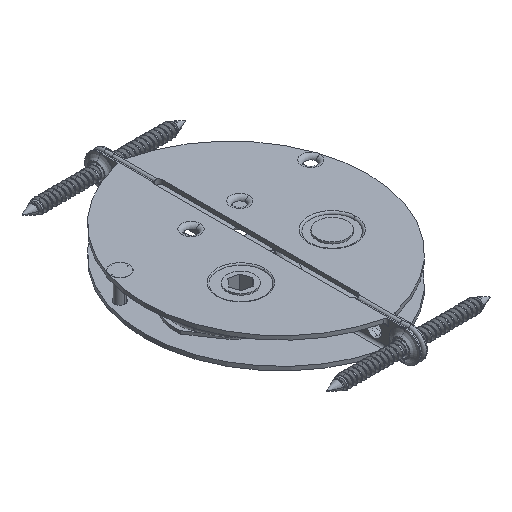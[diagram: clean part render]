
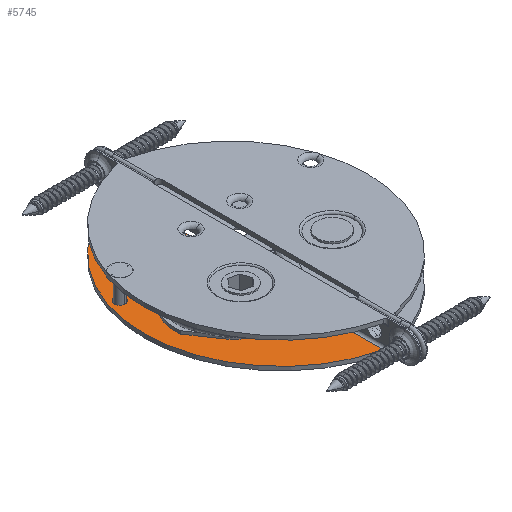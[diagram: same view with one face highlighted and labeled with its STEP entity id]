
A CAD part, isometric view. The second image highlights one B-rep face of the part: STEP entity #5745.
In plain terms, the highlighted planar face has unit normal (0, 0, 1).
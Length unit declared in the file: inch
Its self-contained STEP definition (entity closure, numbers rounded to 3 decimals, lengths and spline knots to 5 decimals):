
#5211 = VERTEX_POINT ( 'NONE', #14658 ) ;
#5212 = VERTEX_POINT ( 'NONE', #14693 ) ;
#5213 = EDGE_CURVE ( 'NONE', #5211, #5212, #14653, .T. ) ;
#5224 = VERTEX_POINT ( 'NONE', #14677 ) ;
#5225 = EDGE_CURVE ( 'NONE', #5244, #5224, #14727, .T. ) ;
#5244 = VERTEX_POINT ( 'NONE', #14756 ) ;
#5325 = EDGE_CURVE ( 'NONE', #5350, #5347, #14938, .T. ) ;
#5347 = VERTEX_POINT ( 'NONE', #14955 ) ;
#5350 = VERTEX_POINT ( 'NONE', #14959 ) ;
#5437 = EDGE_CURVE ( 'NONE', #5347, #5350, #15156, .T. ) ;
#5461 = VERTEX_POINT ( 'NONE', #15171 ) ;
#5462 = EDGE_CURVE ( 'NONE', #5461, #5486, #15165, .T. ) ;
#5486 = VERTEX_POINT ( 'NONE', #15229 ) ;
#5609 = EDGE_CURVE ( 'NONE', #5618, #5610, #15453, .T. ) ;
#5610 = VERTEX_POINT ( 'NONE', #15454 ) ;
#5618 = VERTEX_POINT ( 'NONE', #15492 ) ;
#5676 = ORIENTED_EDGE ( 'NONE', *, *, #5609, .F. ) ;
#5677 = EDGE_CURVE ( 'NONE', #5696, #5610, #15598, .T. ) ;
#5678 = EDGE_CURVE ( 'NONE', #5618, #5693, #15638, .T. ) ;
#5679 = ORIENTED_EDGE ( 'NONE', *, *, #5677, .T. ) ;
#5680 = ORIENTED_EDGE ( 'NONE', *, *, #5678, .T. ) ;
#5681 = ORIENTED_EDGE ( 'NONE', *, *, #5682, .T. ) ;
#5682 = EDGE_CURVE ( 'NONE', #5693, #5461, #15632, .T. ) ;
#5683 = EDGE_LOOP ( 'NONE', ( #5743, #5722 ) ) ;
#5687 = ORIENTED_EDGE ( 'NONE', *, *, #5746, .T. ) ;
#5691 = ORIENTED_EDGE ( 'NONE', *, *, #5213, .F. ) ;
#5693 = VERTEX_POINT ( 'NONE', #15619 ) ;
#5694 = ORIENTED_EDGE ( 'NONE', *, *, #5462, .T. ) ;
#5696 = VERTEX_POINT ( 'NONE', #15617 ) ;
#5698 = EDGE_LOOP ( 'NONE', ( #5694, #5687, #5679, #5676, #5680, #5681 ) ) ;
#5722 = ORIENTED_EDGE ( 'NONE', *, *, #5225, .F. ) ;
#5735 = EDGE_LOOP ( 'NONE', ( #5736, #5738 ) ) ;
#5736 = ORIENTED_EDGE ( 'NONE', *, *, #5437, .F. ) ;
#5737 = EDGE_LOOP ( 'NONE', ( #5740, #5691 ) ) ;
#5738 = ORIENTED_EDGE ( 'NONE', *, *, #5325, .F. ) ;
#5739 = EDGE_CURVE ( 'NONE', #5212, #5211, #15738, .T. ) ;
#5740 = ORIENTED_EDGE ( 'NONE', *, *, #5739, .F. ) ;
#5742 = EDGE_CURVE ( 'NONE', #5224, #5244, #15735, .T. ) ;
#5743 = ORIENTED_EDGE ( 'NONE', *, *, #5742, .F. ) ;
#5745 = ADVANCED_FACE ( 'NONE', ( #15734, #15714, #15769, #15772 ), #15733, .F. ) ;
#5746 = EDGE_CURVE ( 'NONE', #5486, #5696, #15750, .T. ) ;
#14638 = AXIS2_PLACEMENT_3D ( 'NONE', #14684, #14683, #14682 ) ;
#14653 = CIRCLE ( 'NONE', #14638, 0.0665 ) ;
#14658 = CARTESIAN_POINT ( 'NONE',  ( -0.2335, 0.5, -0.1397 ) ) ;
#14677 = CARTESIAN_POINT ( 'NONE',  ( -1.2415, 0.5, -0.1397 ) ) ;
#14682 = DIRECTION ( 'NONE',  ( -1., 0., 0. ) ) ;
#14683 = DIRECTION ( 'NONE',  ( 0., 0., 1. ) ) ;
#14684 = CARTESIAN_POINT ( 'NONE',  ( -0.3, 0.5, -0.1397 ) ) ;
#14693 = CARTESIAN_POINT ( 'NONE',  ( -0.3665, 0.5, -0.1397 ) ) ;
#14721 = DIRECTION ( 'NONE',  ( -1., 0., 0. ) ) ;
#14722 = DIRECTION ( 'NONE',  ( 0., 0., 1. ) ) ;
#14723 = CARTESIAN_POINT ( 'NONE',  ( -1.175, 0.5, -0.1397 ) ) ;
#14724 = AXIS2_PLACEMENT_3D ( 'NONE', #14723, #14722, #14721 ) ;
#14727 = CIRCLE ( 'NONE', #14724, 0.0665 ) ;
#14756 = CARTESIAN_POINT ( 'NONE',  ( -1.1085, 0.5, -0.1397 ) ) ;
#14934 = DIRECTION ( 'NONE',  ( -1., 0., 0. ) ) ;
#14935 = DIRECTION ( 'NONE',  ( 0., 0., 1. ) ) ;
#14936 = CARTESIAN_POINT ( 'NONE',  ( -0.562, -0.375, -0.1397 ) ) ;
#14937 = AXIS2_PLACEMENT_3D ( 'NONE', #14936, #14935, #14934 ) ;
#14938 = CIRCLE ( 'NONE', #14937, 0.1725 ) ;
#14955 = CARTESIAN_POINT ( 'NONE',  ( -0.3895, -0.375, -0.1397 ) ) ;
#14959 = CARTESIAN_POINT ( 'NONE',  ( -0.7345, -0.375, -0.1397 ) ) ;
#15147 = DIRECTION ( 'NONE',  ( -1., 0., 0. ) ) ;
#15148 = DIRECTION ( 'NONE',  ( 0., 0., 1. ) ) ;
#15149 = CARTESIAN_POINT ( 'NONE',  ( -0.562, -0.375, -0.1397 ) ) ;
#15150 = AXIS2_PLACEMENT_3D ( 'NONE', #15149, #15148, #15147 ) ;
#15156 = CIRCLE ( 'NONE', #15150, 0.1725 ) ;
#15163 = DIRECTION ( 'NONE',  ( 0., 1., 0. ) ) ;
#15164 = CARTESIAN_POINT ( 'NONE',  ( -0.0478, -2.0625, -0.1397 ) ) ;
#15165 = LINE ( 'NONE', #15164, #15217 ) ;
#15171 = CARTESIAN_POINT ( 'NONE',  ( -0.0478, -1.1728, -0.1397 ) ) ;
#15217 = VECTOR ( 'NONE', #15163, 39.37008 ) ;
#15229 = CARTESIAN_POINT ( 'NONE',  ( -0.0478, 1.1728, -0.1397 ) ) ;
#15453 = CIRCLE ( 'NONE', #15504, 1.68926 ) ;
#15454 = CARTESIAN_POINT ( 'NONE',  ( -0.0788, 1.64289, -0.1397 ) ) ;
#15460 = CARTESIAN_POINT ( 'NONE',  ( 0.31426, 0., -0.1397 ) ) ;
#15492 = CARTESIAN_POINT ( 'NONE',  ( -0.0788, -1.64289, -0.1397 ) ) ;
#15494 = DIRECTION ( 'NONE',  ( -1., 0., 0. ) ) ;
#15495 = DIRECTION ( 'NONE',  ( 0., 0., -1. ) ) ;
#15504 = AXIS2_PLACEMENT_3D ( 'NONE', #15460, #15495, #15494 ) ;
#15594 = DIRECTION ( 'NONE',  ( 0., 1., 0. ) ) ;
#15595 = CARTESIAN_POINT ( 'NONE',  ( -0.0788, 1.65, -0.1397 ) ) ;
#15598 = LINE ( 'NONE', #15595, #15640 ) ;
#15617 = CARTESIAN_POINT ( 'NONE',  ( -0.0788, 1.26055, -0.1397 ) ) ;
#15619 = CARTESIAN_POINT ( 'NONE',  ( -0.0788, -1.26055, -0.1397 ) ) ;
#15620 = CARTESIAN_POINT ( 'NONE',  ( -0.0478, -1.1728, -0.1397 ) ) ;
#15621 = CARTESIAN_POINT ( 'NONE',  ( -0.05153, -1.17978, -0.1397 ) ) ;
#15622 = CARTESIAN_POINT ( 'NONE',  ( -0.05518, -1.18662, -0.1397 ) ) ;
#15623 = CARTESIAN_POINT ( 'NONE',  ( -0.0622, -1.20062, -0.1397 ) ) ;
#15624 = CARTESIAN_POINT ( 'NONE',  ( -0.06552, -1.2077, -0.1397 ) ) ;
#15625 = CARTESIAN_POINT ( 'NONE',  ( -0.0714, -1.22222, -0.1397 ) ) ;
#15626 = CARTESIAN_POINT ( 'NONE',  ( -0.07396, -1.2297, -0.1397 ) ) ;
#15627 = CARTESIAN_POINT ( 'NONE',  ( -0.07764, -1.24489, -0.1397 ) ) ;
#15628 = CARTESIAN_POINT ( 'NONE',  ( -0.0788, -1.25264, -0.1397 ) ) ;
#15629 = CARTESIAN_POINT ( 'NONE',  ( -0.0788, -1.26055, -0.1397 ) ) ;
#15632 = B_SPLINE_CURVE_WITH_KNOTS ( 'NONE', 3,
 ( #15629, #15628, #15627, #15626, #15625, #15624, #15623, #15622, #15621, #15620 ),
 .UNSPECIFIED., .F., .F.,
 ( 4, 2, 2, 2, 4 ),
 ( 0., 0.0006, 0.00121, 0.00181, 0.00241 ),
 .UNSPECIFIED. ) ;
#15635 = DIRECTION ( 'NONE',  ( 0., 1., 0. ) ) ;
#15636 = VECTOR ( 'NONE', #15635, 39.37008 ) ;
#15637 = CARTESIAN_POINT ( 'NONE',  ( -0.0788, 1.875, -0.1397 ) ) ;
#15638 = LINE ( 'NONE', #15637, #15636 ) ;
#15640 = VECTOR ( 'NONE', #15594, 39.37008 ) ;
#15684 = CARTESIAN_POINT ( 'NONE',  ( -1.375, 1.875, -0.1397 ) ) ;
#15710 = DIRECTION ( 'NONE',  ( -1., 0., 0. ) ) ;
#15711 = DIRECTION ( 'NONE',  ( 0., 0., 1. ) ) ;
#15712 = CARTESIAN_POINT ( 'NONE',  ( -1.175, 0.5, -0.1397 ) ) ;
#15713 = AXIS2_PLACEMENT_3D ( 'NONE', #15712, #15711, #15710 ) ;
#15714 = FACE_BOUND ( 'NONE', #5735, .T. ) ;
#15715 = DIRECTION ( 'NONE',  ( -1., 0., 0. ) ) ;
#15716 = DIRECTION ( 'NONE',  ( 0., 0., 1. ) ) ;
#15717 = AXIS2_PLACEMENT_3D ( 'NONE', #15684, #15768, #15771 ) ;
#15719 = CARTESIAN_POINT ( 'NONE',  ( -0.3, 0.5, -0.1397 ) ) ;
#15731 = AXIS2_PLACEMENT_3D ( 'NONE', #15719, #15716, #15715 ) ;
#15733 = PLANE ( 'NONE',  #15717 ) ;
#15734 = FACE_OUTER_BOUND ( 'NONE', #5698, .T. ) ;
#15735 = CIRCLE ( 'NONE', #15713, 0.0665 ) ;
#15738 = CIRCLE ( 'NONE', #15731, 0.0665 ) ;
#15741 = CARTESIAN_POINT ( 'NONE',  ( -0.0788, 1.25264, -0.1397 ) ) ;
#15742 = CARTESIAN_POINT ( 'NONE',  ( -0.07764, 1.24489, -0.1397 ) ) ;
#15743 = CARTESIAN_POINT ( 'NONE',  ( -0.07396, 1.2297, -0.1397 ) ) ;
#15744 = CARTESIAN_POINT ( 'NONE',  ( -0.0714, 1.22221, -0.1397 ) ) ;
#15745 = CARTESIAN_POINT ( 'NONE',  ( -0.06259, 1.20043, -0.1397 ) ) ;
#15746 = CARTESIAN_POINT ( 'NONE',  ( -0.05517, 1.1866, -0.1397 ) ) ;
#15747 = CARTESIAN_POINT ( 'NONE',  ( -0.0478, 1.1728, -0.1397 ) ) ;
#15750 = B_SPLINE_CURVE_WITH_KNOTS ( 'NONE', 3,
 ( #15747, #15746, #15745, #15744, #15743, #15742, #15741, #15803 ),
 .UNSPECIFIED., .F., .F.,
 ( 4, 2, 2, 4 ),
 ( -0.00001, 0.00118, 0.00178, 0.00237 ),
 .UNSPECIFIED. ) ;
#15768 = DIRECTION ( 'NONE',  ( 0., 0., -1. ) ) ;
#15769 = FACE_BOUND ( 'NONE', #5737, .T. ) ;
#15771 = DIRECTION ( 'NONE',  ( -1., 0., 0. ) ) ;
#15772 = FACE_BOUND ( 'NONE', #5683, .T. ) ;
#15803 = CARTESIAN_POINT ( 'NONE',  ( -0.0788, 1.26055, -0.1397 ) ) ;
